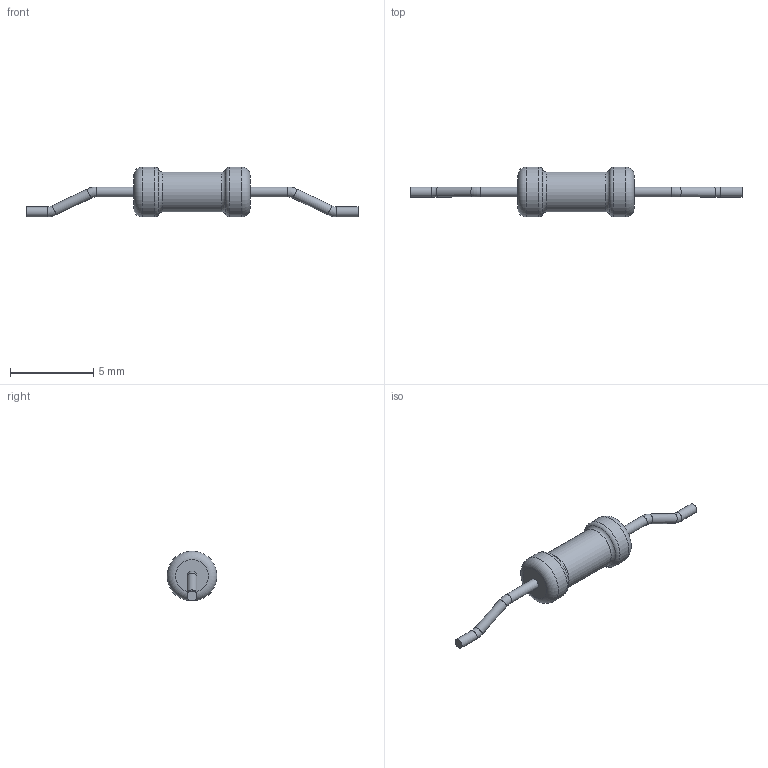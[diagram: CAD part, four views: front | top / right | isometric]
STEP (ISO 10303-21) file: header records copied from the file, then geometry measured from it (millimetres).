
FILE_DESCRIPTION(('STEP AP203'), '1');
FILE_NAME('C2-33-0.25 (3)', '', ('UNSPECIFIED'), ('UNSPECIFIED'), 'ASCON STEP Converter 1.6', 'ASCON Math Kernel', '');
FILE_SCHEMA(('CONFIG_CONTROL_DESIGN'));
Length unit declared in the file: millimetre
Bounding box: 20 x 3 x 3 mm (x, y, z)
Volume: 42.1 mm3; surface area: 95.8 mm2
Topology: 1 solids, 1 shells, 23 faces, 41 edges, 22 vertices
Faces by surface type: torus 10, cylinder 9, plane 4
Full cylindrical faces by diameter (mm): 0.6 x6, 2.4 x1, 3 x2
Entity records: 682 total; most frequent: DIRECTION 92, CARTESIAN_POINT 68, AXIS2_PLACEMENT_3D 46, EDGE_LOOP 44, ORIENTED_EDGE 44, FACE_OUTER_BOUND 38, COLOUR_RGB 24, FILL_AREA_STYLE_COLOUR 24
